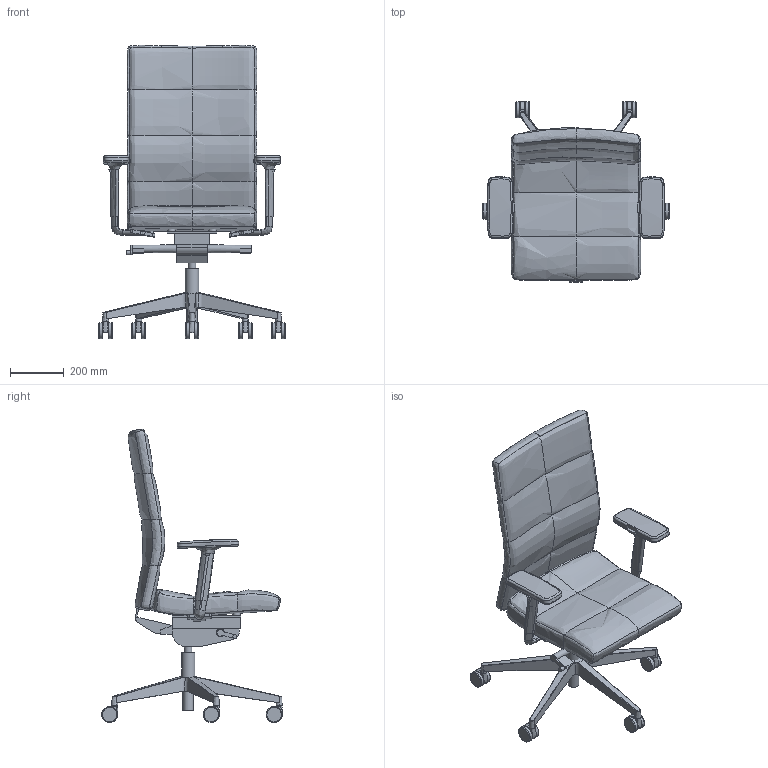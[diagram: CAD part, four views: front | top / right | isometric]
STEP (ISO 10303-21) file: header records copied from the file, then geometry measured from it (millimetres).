
FILE_DESCRIPTION(/* description */ (''),/* implementation_level */ '2;1');
FILE_NAME(/* name */ 'Laser 695-SYS',/* time_stamp */ '2019-08-14T15:46:39+02:00',/* author */ (''),/* organization */ (''),/* preprocessor_version */ 'ST-DEVELOPER v16.5',/* originating_system */ '',/* authorisation */ '');
FILE_SCHEMA (('AUTOMOTIVE_DESIGN'));
Length unit declared in the file: millimetre
Products named in the file (1): Document
Bounding box: 694.82 x 673.73 x 1093.86 mm (x, y, z)
Volume: 23003862.4 mm3; surface area: 2261484.1 mm2
Topology: 19 solids, 51 shells, 387 faces, 919 edges, 566 vertices
Faces by surface type: bspline 261, plane 126
Entity records: 23616 total; most frequent: CARTESIAN_POINT 17705, ORIENTED_EDGE 1671, EDGE_CURVE 901, B_SPLINE_CURVE_WITH_KNOTS 571, VERTEX_POINT 560, ADVANCED_FACE 387, FACE_OUTER_BOUND 387, EDGE_LOOP 387
